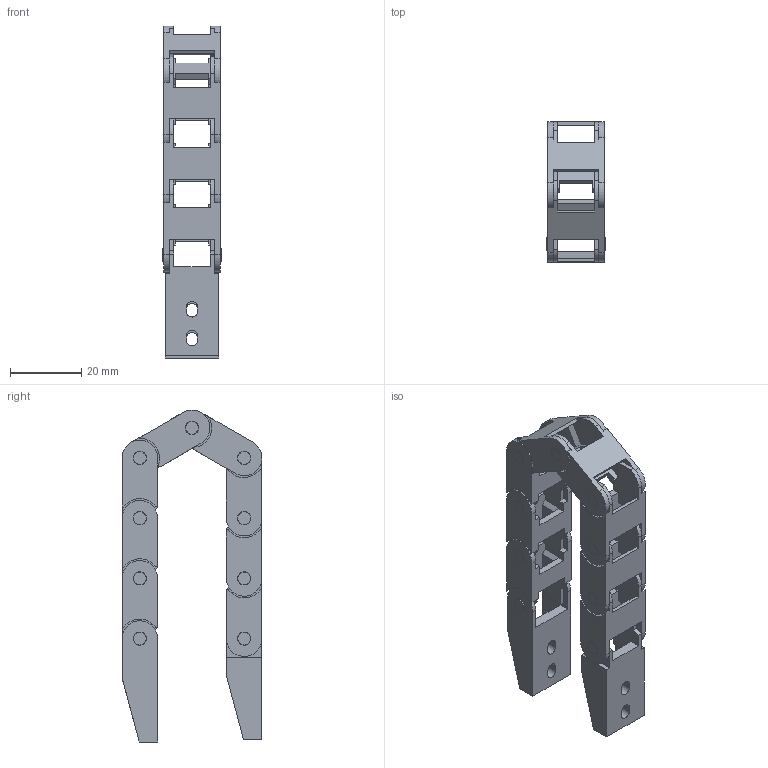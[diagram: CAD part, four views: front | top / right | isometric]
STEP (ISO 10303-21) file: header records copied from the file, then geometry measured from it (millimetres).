
FILE_DESCRIPTION((''),'2;1');
FILE_NAME('70001_ASM_48_ASM','2024-07-16T20:43:09',('admin'),(''),'CREO PARAMETRIC BY PTC INC, 2021164','CREO PARAMETRIC BY PTC INC, 2021164','');
FILE_SCHEMA(('CONFIG_CONTROL_DESIGN','GEOMETRIC_VALIDATION_PROPERTIES_MIM'));
Length unit declared in the file: millimetre
Products named in the file (4): 7X7-R15-00_5; 7X-10-LLT-150; 7X10-LLT-151; 70001_ASM_48_ASM
Assembly tree (10 placements, depth 2):
  70001_ASM_48_ASM
    7X7-R15-00_5  x8
    7X-10-LLT-150
    7X10-LLT-151
Bounding box: 16.39 x 39.27 x 93.15 mm (x, y, z)
Volume: 11435.7 mm3; surface area: 16845 mm2
Topology: 10 solids, 10 shells, 445 faces, 1255 edges, 832 vertices
Faces by surface type: plane 294, cylinder 147, bspline 4
Entity records: 5830 total; most frequent: CARTESIAN_POINT 903, ORIENTED_EDGE 690, DIRECTION 667, PRESENTATION_STYLE_ASSIGNMENT 348, STYLED_ITEM 348, CURVE_STYLE 345, EDGE_CURVE 345, COLOUR_RGB 317
